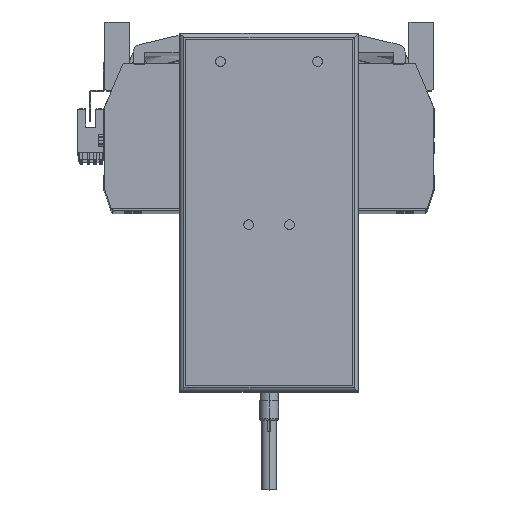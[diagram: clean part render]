
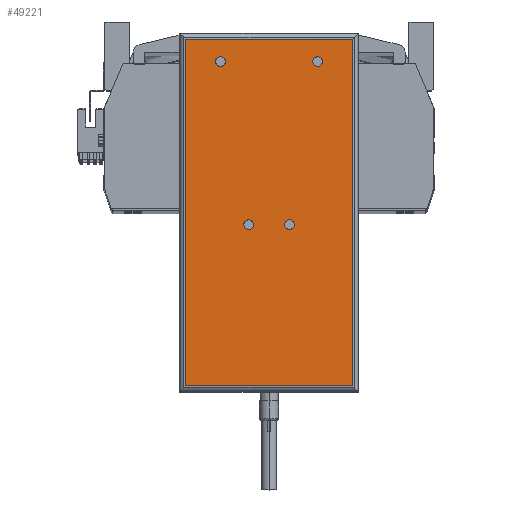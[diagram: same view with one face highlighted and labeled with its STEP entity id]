
A CAD part, top view. The second image highlights one B-rep face of the part: STEP entity #49221.
In plain terms, the highlighted planar face has unit normal (0, 0, 1) as drawn and (0, 0, -1) by its records, which use the part's own axes.
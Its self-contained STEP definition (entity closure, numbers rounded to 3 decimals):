
#67 = CARTESIAN_POINT ( 'NONE',  ( -13., -6.25, 0. ) ) ;
#106 = EDGE_LOOP ( 'NONE', ( #27169, #26871 ) ) ;
#118 = CARTESIAN_POINT ( 'NONE',  ( -25., 77.75, 0. ) ) ;
#144 = EDGE_CURVE ( 'NONE', #40331, #31733, #31953, .T. ) ;
#285 = CIRCLE ( 'NONE', #9227, 2.5 ) ;
#825 = ORIENTED_EDGE ( 'NONE', *, *, #20480, .T. ) ;
#1010 = CARTESIAN_POINT ( 'NONE',  ( -46., -92.25, 0. ) ) ;
#1243 = CARTESIAN_POINT ( 'NONE',  ( 25., 77.75, 0. ) ) ;
#2228 = VERTEX_POINT ( 'NONE', #67 ) ;
#2283 = DIRECTION ( 'NONE',  ( -1., 0., 0. ) ) ;
#2638 = VECTOR ( 'NONE', #35176, 1000. ) ;
#3099 = CARTESIAN_POINT ( 'NONE',  ( -43., -92.25, 0. ) ) ;
#3281 = LINE ( 'NONE', #3099, #2638 ) ;
#3396 = CARTESIAN_POINT ( 'NONE',  ( -10.5, -6.25, 0. ) ) ;
#4335 = DIRECTION ( 'NONE',  ( 0., 0., -1. ) ) ;
#4567 = CIRCLE ( 'NONE', #5093, 2.5 ) ;
#4882 = DIRECTION ( 'NONE',  ( -1., 0., 0. ) ) ;
#5093 = AXIS2_PLACEMENT_3D ( 'NONE', #45703, #21355, #29785 ) ;
#5759 = VECTOR ( 'NONE', #4882, 1000. ) ;
#6513 = CARTESIAN_POINT ( 'NONE',  ( -43., 89.25, 0. ) ) ;
#6968 = CARTESIAN_POINT ( 'NONE',  ( -27.5, 77.75, 0. ) ) ;
#7160 = AXIS2_PLACEMENT_3D ( 'NONE', #44816, #20294, #12089 ) ;
#7473 = CARTESIAN_POINT ( 'NONE',  ( -8., -6.25, 0. ) ) ;
#7554 = FACE_BOUND ( 'NONE', #41039, .T. ) ;
#7858 = DIRECTION ( 'NONE',  ( 1., 0., 0. ) ) ;
#7887 = ORIENTED_EDGE ( 'NONE', *, *, #49081, .F. ) ;
#7982 = CARTESIAN_POINT ( 'NONE',  ( 13., -6.25, 0. ) ) ;
#8704 = VERTEX_POINT ( 'NONE', #22718 ) ;
#9176 = VERTEX_POINT ( 'NONE', #6968 ) ;
#9227 = AXIS2_PLACEMENT_3D ( 'NONE', #44100, #35856, #43596 ) ;
#10025 = VERTEX_POINT ( 'NONE', #6513 ) ;
#12089 = DIRECTION ( 'NONE',  ( -1., 0., 0. ) ) ;
#12567 = CIRCLE ( 'NONE', #42609, 2.5 ) ;
#13121 = DIRECTION ( 'NONE',  ( 1., 0., 0. ) ) ;
#13330 = EDGE_LOOP ( 'NONE', ( #825, #17799, #36181, #23092 ) ) ;
#13868 = CARTESIAN_POINT ( 'NONE',  ( 22.5, 77.75, 0. ) ) ;
#13975 = LINE ( 'NONE', #38891, #28440 ) ;
#14189 = EDGE_CURVE ( 'NONE', #15837, #25792, #18742, .T. ) ;
#15116 = EDGE_CURVE ( 'NONE', #20220, #9176, #24408, .T. ) ;
#15676 = FACE_BOUND ( 'NONE', #19475, .T. ) ;
#15837 = VERTEX_POINT ( 'NONE', #50978 ) ;
#17465 = PLANE ( 'NONE',  #44092 ) ;
#17583 = FACE_BOUND ( 'NONE', #35239, .T. ) ;
#17799 = ORIENTED_EDGE ( 'NONE', *, *, #22787, .T. ) ;
#18735 = CARTESIAN_POINT ( 'NONE',  ( 10.5, -6.25, 0. ) ) ;
#18742 = CIRCLE ( 'NONE', #31603, 2.5 ) ;
#19065 = EDGE_CURVE ( 'NONE', #31733, #40331, #34712, .T. ) ;
#19475 = EDGE_LOOP ( 'NONE', ( #28746, #32441 ) ) ;
#19994 = AXIS2_PLACEMENT_3D ( 'NONE', #26795, #42693, #23265 ) ;
#20220 = VERTEX_POINT ( 'NONE', #21217 ) ;
#20294 = DIRECTION ( 'NONE',  ( 0., 0., -1. ) ) ;
#20480 = EDGE_CURVE ( 'NONE', #42561, #8704, #13975, .T. ) ;
#21217 = CARTESIAN_POINT ( 'NONE',  ( -22.5, 77.75, 0. ) ) ;
#21355 = DIRECTION ( 'NONE',  ( 0., 0., -1. ) ) ;
#22400 = EDGE_CURVE ( 'NONE', #51347, #10025, #3281, .T. ) ;
#22718 = CARTESIAN_POINT ( 'NONE',  ( 43., -89.25, 0. ) ) ;
#22787 = EDGE_CURVE ( 'NONE', #8704, #51347, #28347, .T. ) ;
#23092 = ORIENTED_EDGE ( 'NONE', *, *, #42614, .T. ) ;
#23265 = DIRECTION ( 'NONE',  ( -1., 0., 0. ) ) ;
#23863 = CARTESIAN_POINT ( 'NONE',  ( 43., 89.25, 0. ) ) ;
#24408 = CIRCLE ( 'NONE', #25525, 2.5 ) ;
#25525 = AXIS2_PLACEMENT_3D ( 'NONE', #118, #4335, #32388 ) ;
#25792 = VERTEX_POINT ( 'NONE', #13868 ) ;
#26795 = CARTESIAN_POINT ( 'NONE',  ( 10.5, -6.25, 0. ) ) ;
#26852 = DIRECTION ( 'NONE',  ( 0., 0., -1. ) ) ;
#26871 = ORIENTED_EDGE ( 'NONE', *, *, #14189, .F. ) ;
#27060 = CIRCLE ( 'NONE', #7160, 2.5 ) ;
#27169 = ORIENTED_EDGE ( 'NONE', *, *, #47292, .F. ) ;
#27844 = VECTOR ( 'NONE', #7858, 1000. ) ;
#28347 = LINE ( 'NONE', #45512, #5759 ) ;
#28440 = VECTOR ( 'NONE', #30679, 1000. ) ;
#28632 = DIRECTION ( 'NONE',  ( -1., 0., 0. ) ) ;
#28746 = ORIENTED_EDGE ( 'NONE', *, *, #19065, .F. ) ;
#28783 = DIRECTION ( 'NONE',  ( 0., 0., -1. ) ) ;
#29785 = DIRECTION ( 'NONE',  ( -1., 0., 0. ) ) ;
#30679 = DIRECTION ( 'NONE',  ( 0., -1., 0. ) ) ;
#31603 = AXIS2_PLACEMENT_3D ( 'NONE', #1243, #28783, #32643 ) ;
#31633 = ORIENTED_EDGE ( 'NONE', *, *, #15116, .F. ) ;
#31733 = VERTEX_POINT ( 'NONE', #46418 ) ;
#31953 = CIRCLE ( 'NONE', #39781, 2.5 ) ;
#32388 = DIRECTION ( 'NONE',  ( -1., 0., 0. ) ) ;
#32441 = ORIENTED_EDGE ( 'NONE', *, *, #144, .F. ) ;
#32643 = DIRECTION ( 'NONE',  ( -1., 0., 0. ) ) ;
#34712 = CIRCLE ( 'NONE', #19994, 2.5 ) ;
#35143 = ORIENTED_EDGE ( 'NONE', *, *, #36534, .F. ) ;
#35176 = DIRECTION ( 'NONE',  ( 0., 1., 0. ) ) ;
#35239 = EDGE_LOOP ( 'NONE', ( #42071, #35143 ) ) ;
#35467 = DIRECTION ( 'NONE',  ( 0., 0., -1. ) ) ;
#35856 = DIRECTION ( 'NONE',  ( 0., 0., -1. ) ) ;
#36181 = ORIENTED_EDGE ( 'NONE', *, *, #22400, .T. ) ;
#36534 = EDGE_CURVE ( 'NONE', #44323, #2228, #12567, .T. ) ;
#38891 = CARTESIAN_POINT ( 'NONE',  ( 43., -92.25, 0. ) ) ;
#38919 = FACE_BOUND ( 'NONE', #106, .T. ) ;
#39742 = LINE ( 'NONE', #43647, #27844 ) ;
#39781 = AXIS2_PLACEMENT_3D ( 'NONE', #18735, #26852, #2283 ) ;
#40330 = EDGE_CURVE ( 'NONE', #2228, #44323, #285, .T. ) ;
#40331 = VERTEX_POINT ( 'NONE', #7982 ) ;
#41039 = EDGE_LOOP ( 'NONE', ( #7887, #31633 ) ) ;
#42071 = ORIENTED_EDGE ( 'NONE', *, *, #40330, .F. ) ;
#42561 = VERTEX_POINT ( 'NONE', #23863 ) ;
#42609 = AXIS2_PLACEMENT_3D ( 'NONE', #3396, #35467, #28632 ) ;
#42614 = EDGE_CURVE ( 'NONE', #10025, #42561, #39742, .T. ) ;
#42693 = DIRECTION ( 'NONE',  ( 0., 0., -1. ) ) ;
#43596 = DIRECTION ( 'NONE',  ( -1., 0., 0. ) ) ;
#43647 = CARTESIAN_POINT ( 'NONE',  ( -46., 89.25, 0. ) ) ;
#44092 = AXIS2_PLACEMENT_3D ( 'NONE', #1010, #45499, #13121 ) ;
#44100 = CARTESIAN_POINT ( 'NONE',  ( -10.5, -6.25, 0. ) ) ;
#44323 = VERTEX_POINT ( 'NONE', #7473 ) ;
#44816 = CARTESIAN_POINT ( 'NONE',  ( -25., 77.75, 0. ) ) ;
#45499 = DIRECTION ( 'NONE',  ( 0., 0., 1. ) ) ;
#45512 = CARTESIAN_POINT ( 'NONE',  ( -46., -89.25, 0. ) ) ;
#45703 = CARTESIAN_POINT ( 'NONE',  ( 25., 77.75, 0. ) ) ;
#46418 = CARTESIAN_POINT ( 'NONE',  ( 8., -6.25, 0. ) ) ;
#47025 = FACE_OUTER_BOUND ( 'NONE', #13330, .T. ) ;
#47292 = EDGE_CURVE ( 'NONE', #25792, #15837, #4567, .T. ) ;
#47791 = CARTESIAN_POINT ( 'NONE',  ( -43., -89.25, 0. ) ) ;
#49081 = EDGE_CURVE ( 'NONE', #9176, #20220, #27060, .T. ) ;
#49221 = ADVANCED_FACE ( 'NONE', ( #47025, #17583, #15676, #7554, #38919 ), #17465, .F. ) ;
#50978 = CARTESIAN_POINT ( 'NONE',  ( 27.5, 77.75, 0. ) ) ;
#51347 = VERTEX_POINT ( 'NONE', #47791 ) ;
